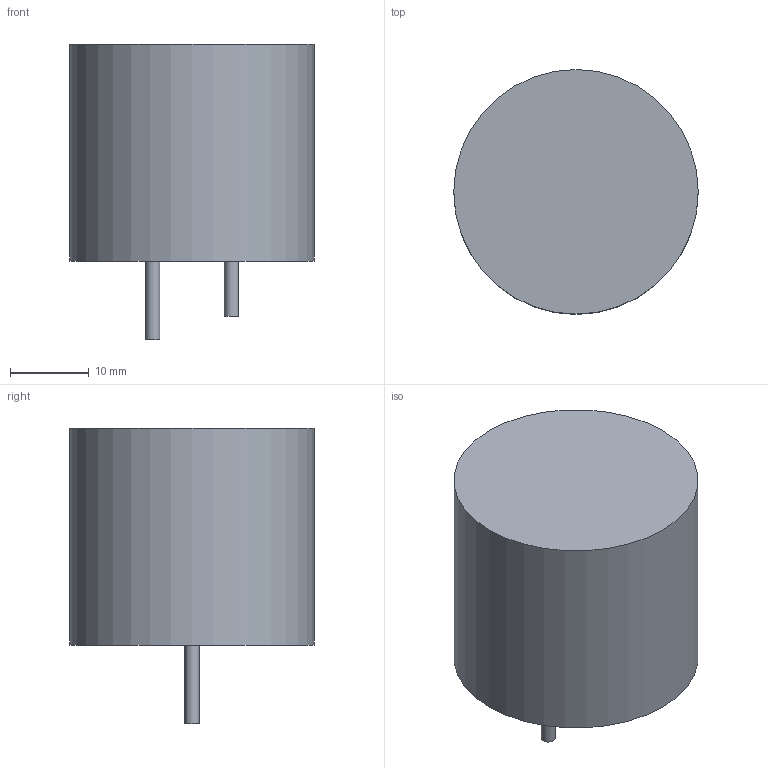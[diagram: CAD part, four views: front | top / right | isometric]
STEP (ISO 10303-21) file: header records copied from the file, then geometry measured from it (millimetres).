
FILE_DESCRIPTION(('FreeCAD Model'),'2;1');
FILE_NAME('/var/www/3D/0T/486477.1.1.stp','2021-07-03T12:39:47',( 'Author'),(''),'Open CASCADE STEP processor 6.9','FreeCAD','Unknown' );
FILE_SCHEMA(('AUTOMOTIVE_DESIGN { 1 0 10303 214 1 1 1 1 }'));
Length unit declared in the file: millimetre
Products named in the file (4): ASSEMBLY; SimpleBody; Pin1; Pin2
Assembly tree (3 placements, depth 2):
  ASSEMBLY
    SimpleBody
    Pin1
    Pin2
Bounding box: 31 x 31 x 37.5 mm (x, y, z)
Volume: 20799.4 mm3; surface area: 4294.1 mm2
Topology: 3 solids, 3 shells, 9 faces, 9 edges, 6 vertices
Faces by surface type: plane 6, cylinder 3
Full cylindrical faces by diameter (mm): 1.8 x2, 31 x1
Entity records: 378 total; most frequent: DIRECTION 59, CARTESIAN_POINT 46, AXIS2_PLACEMENT_3D 19, ORIENTED_EDGE 18, PCURVE 18, DEFINITIONAL_REPRESENTATION 18, LINE 15, VECTOR 15
